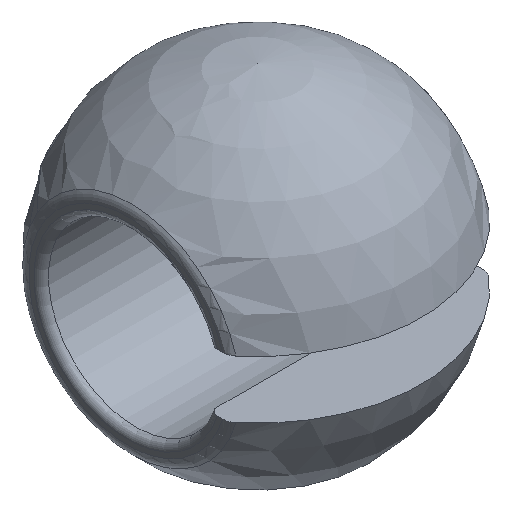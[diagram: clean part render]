
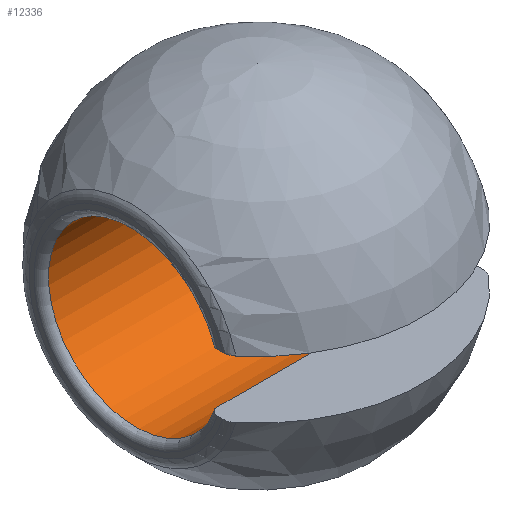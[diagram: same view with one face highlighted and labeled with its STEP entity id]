
A CAD part, isometric view. The second image highlights one B-rep face of the part: STEP entity #12336.
In plain terms, the highlighted cylindrical face has radius 9.538 mm (diameter 19.075 mm), a partial arc.
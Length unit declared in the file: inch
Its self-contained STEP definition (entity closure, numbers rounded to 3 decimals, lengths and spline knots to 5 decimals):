
#18=CYLINDRICAL_SURFACE('',#13948,0.3755);
#859=LINE('',#25497,#1482);
#862=LINE('',#25532,#1485);
#1482=VECTOR('',#17680,0.3937);
#1485=VECTOR('',#17685,0.3937);
#2674=FACE_OUTER_BOUND('',#3431,.T.);
#3431=EDGE_LOOP('',(#11572,#11573,#11574,#11575));
#4684=CIRCLE('',#13939,0.3755);
#4688=CIRCLE('',#13949,0.3755);
#5934=VERTEX_POINT('',#25485);
#5935=VERTEX_POINT('',#25496);
#5939=VERTEX_POINT('',#25520);
#5940=VERTEX_POINT('',#25531);
#7806=EDGE_CURVE('',#5935,#5934,#859,.T.);
#7812=EDGE_CURVE('',#5940,#5939,#862,.T.);
#7817=EDGE_CURVE('',#5940,#5934,#4684,.T.);
#7821=EDGE_CURVE('',#5935,#5939,#4688,.T.);
#11572=ORIENTED_EDGE('',*,*,#7806,.T.);
#11573=ORIENTED_EDGE('',*,*,#7817,.F.);
#11574=ORIENTED_EDGE('',*,*,#7812,.T.);
#11575=ORIENTED_EDGE('',*,*,#7821,.F.);
#12336=ADVANCED_FACE('',(#2674),#18,.F.);
#13939=AXIS2_PLACEMENT_3D('',#25554,#17691,#17692);
#13948=AXIS2_PLACEMENT_3D('',#25563,#17709,#17710);
#13949=AXIS2_PLACEMENT_3D('',#25564,#17711,#17712);
#17680=DIRECTION('',(1.,0.,0.));
#17685=DIRECTION('',(-1.,0.,0.));
#17691=DIRECTION('center_axis',(-1.,0.,0.));
#17692=DIRECTION('ref_axis',(0.,-1.,0.));
#17709=DIRECTION('center_axis',(1.,0.,0.));
#17710=DIRECTION('ref_axis',(0.,1.,0.));
#17711=DIRECTION('center_axis',(1.,0.,0.));
#17712=DIRECTION('ref_axis',(0.,-1.,0.));
#25485=CARTESIAN_POINT('',(0.5305,-0.35408,-0.125));
#25496=CARTESIAN_POINT('',(-0.5305,-0.35408,-0.125));
#25497=CARTESIAN_POINT('',(0.,-0.35408,-0.125));
#25520=CARTESIAN_POINT('',(-0.5305,-0.35408,0.125));
#25531=CARTESIAN_POINT('',(0.5305,-0.35408,0.125));
#25532=CARTESIAN_POINT('',(0.,-0.35408,0.125));
#25554=CARTESIAN_POINT('Origin',(0.5305,0.,0.));
#25563=CARTESIAN_POINT('Origin',(0.,0.,0.));
#25564=CARTESIAN_POINT('Origin',(-0.5305,0.,0.));
